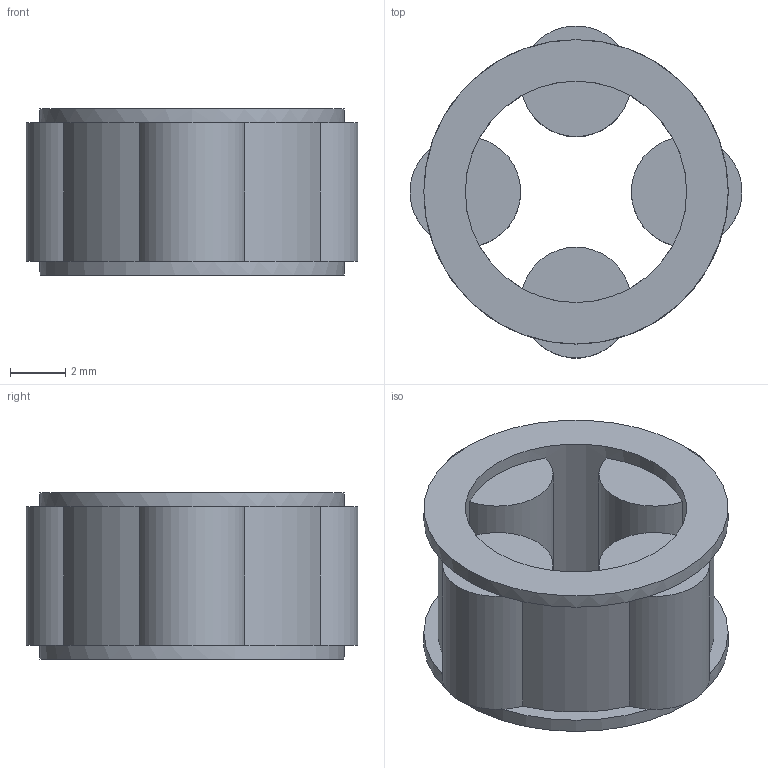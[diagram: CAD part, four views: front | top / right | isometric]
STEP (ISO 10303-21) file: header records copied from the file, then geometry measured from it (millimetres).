
FILE_DESCRIPTION(/* description */ (''),/* implementation_level */ '2;1');
FILE_NAME(/* name */ '303071 RL 412 - 4.stp',/* time_stamp */ '2016-11-10T14:32:38+01:00',/* author */ (''),/* organization */ (''),/* preprocessor_version */ 'ST-DEVELOPER v15',/* originating_system */ 'SIEMENS PLM Software NX 8.5',/* authorisation */ '');
FILE_SCHEMA (('CONFIG_CONTROL_DESIGN'));
Length unit declared in the file: millimetre
Products named in the file (1): ATE0000098_01
Bounding box: 11.99 x 11.99 x 6 mm (x, y, z)
Volume: 355.7 mm3; surface area: 551.1 mm2
Topology: 1 solids, 1 shells, 41 faces, 92 edges, 56 vertices
Faces by surface type: plane 26, cylinder 15
Full cylindrical faces by diameter (mm): 8 x1, 11 x2
Entity records: 1198 total; most frequent: DIRECTION 236, CARTESIAN_POINT 178, ORIENTED_EDGE 168, AXIS2_PLACEMENT_3D 110, EDGE_CURVE 84, CIRCLE 68, VERTEX_POINT 52, EDGE_LOOP 50
